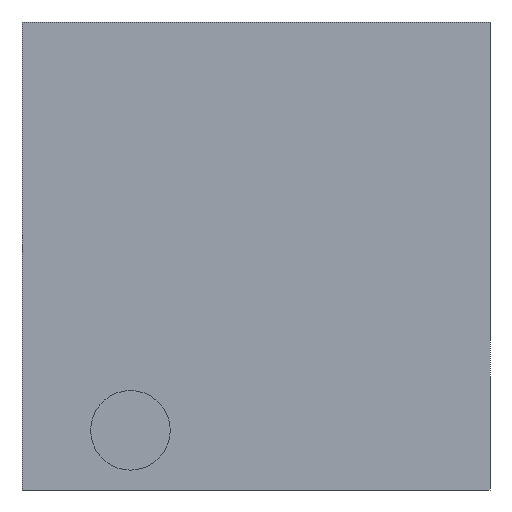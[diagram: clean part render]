
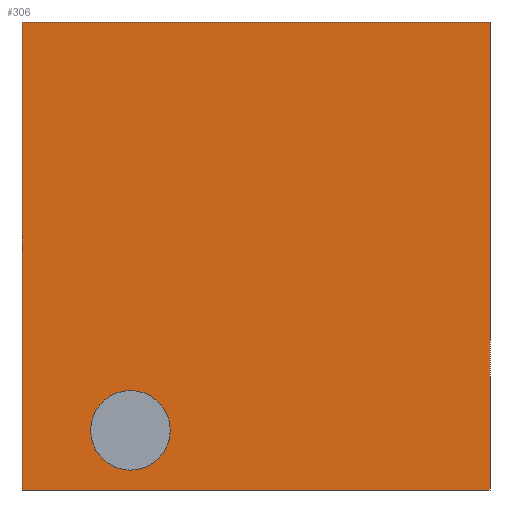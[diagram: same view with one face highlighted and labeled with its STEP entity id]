
A CAD part, left-side view. The second image highlights one B-rep face of the part: STEP entity #306.
In plain terms, the highlighted planar face has unit normal (-1, 0, 0).
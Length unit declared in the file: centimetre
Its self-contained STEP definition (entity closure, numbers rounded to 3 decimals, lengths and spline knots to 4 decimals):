
#2 = LINE ( 'NONE', #707, #205 ) ;
#37 = PLANE ( 'NONE',  #284 ) ;
#39 = VECTOR ( 'NONE', #426, 100. ) ;
#84 = EDGE_CURVE ( 'NONE', #372, #246, #364, .T. ) ;
#93 = CARTESIAN_POINT ( 'NONE',  ( 0., 0., 1000. ) ) ;
#111 = LINE ( 'NONE', #336, #39 ) ;
#145 = CARTESIAN_POINT ( 'NONE',  ( 0., 1000., 1000. ) ) ;
#150 = EDGE_CURVE ( 'NONE', #827, #563, #742, .T. ) ;
#190 = CARTESIAN_POINT ( 'NONE',  ( 0., 1000., 1000. ) ) ;
#193 = VERTEX_POINT ( 'NONE', #812 ) ;
#205 = VECTOR ( 'NONE', #397, 100. ) ;
#209 = CARTESIAN_POINT ( 'NONE',  ( 0., 1000., 0. ) ) ;
#235 = CARTESIAN_POINT ( 'NONE',  ( 0., 768.3262, 127.4917 ) ) ;
#237 = DIRECTION ( 'NONE',  ( 0., 0., 1. ) ) ;
#238 = LINE ( 'NONE', #93, #681 ) ;
#246 = VERTEX_POINT ( 'NONE', #444 ) ;
#267 = AXIS2_PLACEMENT_3D ( 'NONE', #863, #928, #237 ) ;
#284 = AXIS2_PLACEMENT_3D ( 'NONE', #902, #363, #665 ) ;
#306 = ADVANCED_FACE ( 'NONE', ( #973, #986 ), #37, .F. ) ;
#315 = DIRECTION ( 'NONE',  ( 0., 0., 1. ) ) ;
#317 = CARTESIAN_POINT ( 'NONE',  ( 0., 0., 1000. ) ) ;
#318 = EDGE_LOOP ( 'NONE', ( #897, #398, #603, #739 ) ) ;
#336 = CARTESIAN_POINT ( 'NONE',  ( 0., 1000., 1000. ) ) ;
#363 = DIRECTION ( 'NONE',  ( 1., 0., 0. ) ) ;
#364 = CIRCLE ( 'NONE', #267, 85.0171 ) ;
#372 = VERTEX_POINT ( 'NONE', #512 ) ;
#397 = DIRECTION ( 'NONE',  ( 0., -1., 0. ) ) ;
#398 = ORIENTED_EDGE ( 'NONE', *, *, #559, .F. ) ;
#426 = DIRECTION ( 'NONE',  ( 0., 0., -1. ) ) ;
#428 = EDGE_CURVE ( 'NONE', #246, #372, #979, .T. ) ;
#444 = CARTESIAN_POINT ( 'NONE',  ( 0., 768.3262, 212.5088 ) ) ;
#469 = DIRECTION ( 'NONE',  ( 0., 0., -1. ) ) ;
#505 = EDGE_CURVE ( 'NONE', #981, #193, #2, .T. ) ;
#512 = CARTESIAN_POINT ( 'NONE',  ( 0., 768.3262, 42.4746 ) ) ;
#543 = VECTOR ( 'NONE', #956, 100. ) ;
#545 = ORIENTED_EDGE ( 'NONE', *, *, #84, .F. ) ;
#559 = EDGE_CURVE ( 'NONE', #563, #193, #238, .T. ) ;
#563 = VERTEX_POINT ( 'NONE', #317 ) ;
#591 = EDGE_LOOP ( 'NONE', ( #708, #545 ) ) ;
#603 = ORIENTED_EDGE ( 'NONE', *, *, #150, .F. ) ;
#665 = DIRECTION ( 'NONE',  ( 0., 0., -1. ) ) ;
#681 = VECTOR ( 'NONE', #469, 100. ) ;
#696 = EDGE_CURVE ( 'NONE', #827, #981, #111, .T. ) ;
#707 = CARTESIAN_POINT ( 'NONE',  ( 0., 1000., 0. ) ) ;
#708 = ORIENTED_EDGE ( 'NONE', *, *, #428, .F. ) ;
#739 = ORIENTED_EDGE ( 'NONE', *, *, #696, .T. ) ;
#742 = LINE ( 'NONE', #190, #543 ) ;
#780 = AXIS2_PLACEMENT_3D ( 'NONE', #235, #1010, #315 ) ;
#812 = CARTESIAN_POINT ( 'NONE',  ( 0., 0., 0. ) ) ;
#827 = VERTEX_POINT ( 'NONE', #145 ) ;
#863 = CARTESIAN_POINT ( 'NONE',  ( 0., 768.3262, 127.4917 ) ) ;
#897 = ORIENTED_EDGE ( 'NONE', *, *, #505, .T. ) ;
#902 = CARTESIAN_POINT ( 'NONE',  ( 0., 1000., 1000. ) ) ;
#928 = DIRECTION ( 'NONE',  ( -1., 0., 0. ) ) ;
#956 = DIRECTION ( 'NONE',  ( 0., -1., 0. ) ) ;
#973 = FACE_BOUND ( 'NONE', #591, .T. ) ;
#979 = CIRCLE ( 'NONE', #780, 85.0171 ) ;
#981 = VERTEX_POINT ( 'NONE', #209 ) ;
#986 = FACE_OUTER_BOUND ( 'NONE', #318, .T. ) ;
#1010 = DIRECTION ( 'NONE',  ( -1., 0., 0. ) ) ;
